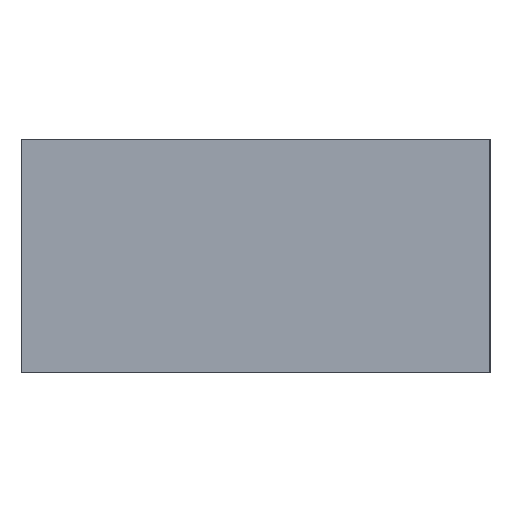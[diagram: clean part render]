
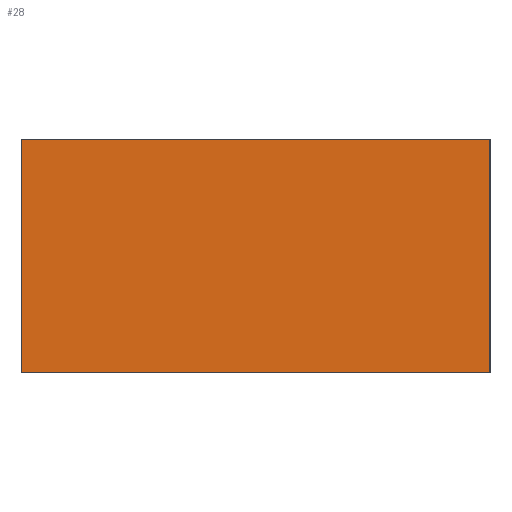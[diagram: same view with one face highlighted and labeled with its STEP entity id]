
A CAD part, front view. The second image highlights one B-rep face of the part: STEP entity #28.
In plain terms, the highlighted planar face has unit normal (0, -1, 0).
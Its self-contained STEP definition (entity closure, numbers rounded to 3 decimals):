
#28=ADVANCED_FACE('',(#34),#186,.T.);
#34=FACE_OUTER_BOUND('',#40,.T.);
#40=EDGE_LOOP('',(#58,#59,#60,#61));
#58=ORIENTED_EDGE('',*,*,#129,.F.);
#59=ORIENTED_EDGE('',*,*,#132,.F.);
#60=ORIENTED_EDGE('',*,*,#135,.F.);
#61=ORIENTED_EDGE('',*,*,#137,.F.);
#69=PCURVE('',#182,#93);
#73=PCURVE('',#183,#97);
#77=PCURVE('',#184,#101);
#81=PCURVE('',#185,#105);
#82=PCURVE('',#186,#106);
#83=PCURVE('',#186,#107);
#84=PCURVE('',#186,#108);
#85=PCURVE('',#186,#109);
#93=DEFINITIONAL_REPRESENTATION('',(#145),#313);
#97=DEFINITIONAL_REPRESENTATION('',(#152),#313);
#101=DEFINITIONAL_REPRESENTATION('',(#159),#313);
#105=DEFINITIONAL_REPRESENTATION('',(#165),#313);
#106=DEFINITIONAL_REPRESENTATION('',(#166),#313);
#107=DEFINITIONAL_REPRESENTATION('',(#167),#313);
#108=DEFINITIONAL_REPRESENTATION('',(#168),#313);
#109=DEFINITIONAL_REPRESENTATION('',(#169),#313);
#117=SURFACE_CURVE('',#144,(#69,#82),.PCURVE_S1.);
#120=SURFACE_CURVE('',#151,(#73,#83),.PCURVE_S1.);
#123=SURFACE_CURVE('',#158,(#77,#84),.PCURVE_S1.);
#125=SURFACE_CURVE('',#164,(#81,#85),.PCURVE_S1.);
#129=EDGE_CURVE('',#175,#174,#117,.T.);
#132=EDGE_CURVE('',#178,#175,#120,.T.);
#135=EDGE_CURVE('',#180,#178,#123,.T.);
#137=EDGE_CURVE('',#174,#180,#125,.T.);
#144=B_SPLINE_CURVE_WITH_KNOTS('',1,(#252,#253),.UNSPECIFIED.,.F.,.F.,(2,
2),(150.,200.),.UNSPECIFIED.);
#145=B_SPLINE_CURVE_WITH_KNOTS('',1,(#254,#255),.UNSPECIFIED.,.F.,.F.,(2,
2),(150.,200.),.UNSPECIFIED.);
#151=B_SPLINE_CURVE_WITH_KNOTS('',1,(#266,#267),.UNSPECIFIED.,.F.,.F.,(2,
2),(100.,150.),.UNSPECIFIED.);
#152=B_SPLINE_CURVE_WITH_KNOTS('',1,(#268,#269),.UNSPECIFIED.,.F.,.F.,(2,
2),(100.,150.),.UNSPECIFIED.);
#158=B_SPLINE_CURVE_WITH_KNOTS('',1,(#280,#281),.UNSPECIFIED.,.F.,.F.,(2,
2),(50.,100.),.UNSPECIFIED.);
#159=B_SPLINE_CURVE_WITH_KNOTS('',1,(#282,#283),.UNSPECIFIED.,.F.,.F.,(2,
2),(50.,100.),.UNSPECIFIED.);
#164=B_SPLINE_CURVE_WITH_KNOTS('',1,(#292,#293),.UNSPECIFIED.,.F.,.F.,(2,
2),(0.,50.),.UNSPECIFIED.);
#165=B_SPLINE_CURVE_WITH_KNOTS('',1,(#294,#295),.UNSPECIFIED.,.F.,.F.,(2,
2),(0.,50.),.UNSPECIFIED.);
#166=B_SPLINE_CURVE_WITH_KNOTS('',1,(#296,#297),.UNSPECIFIED.,.F.,.F.,(2,
2),(150.,200.),.UNSPECIFIED.);
#167=B_SPLINE_CURVE_WITH_KNOTS('',1,(#298,#299),.UNSPECIFIED.,.F.,.F.,(2,
2),(100.,150.),.UNSPECIFIED.);
#168=B_SPLINE_CURVE_WITH_KNOTS('',1,(#300,#301),.UNSPECIFIED.,.F.,.F.,(2,
2),(50.,100.),.UNSPECIFIED.);
#169=B_SPLINE_CURVE_WITH_KNOTS('',1,(#302,#303),.UNSPECIFIED.,.F.,.F.,(2,
2),(0.,50.),.UNSPECIFIED.);
#174=VERTEX_POINT('',#232);
#175=VERTEX_POINT('',#233);
#178=VERTEX_POINT('',#236);
#180=VERTEX_POINT('',#238);
#182=PLANE('',#208);
#183=PLANE('',#209);
#184=PLANE('',#210);
#185=PLANE('',#211);
#186=PLANE('',#212);
#208=AXIS2_PLACEMENT_3D('',#226,#217,$);
#209=AXIS2_PLACEMENT_3D('',#227,#218,$);
#210=AXIS2_PLACEMENT_3D('',#228,#219,$);
#211=AXIS2_PLACEMENT_3D('',#229,#220,$);
#212=AXIS2_PLACEMENT_3D('',#230,#221,$);
#217=DIRECTION('',(1.,0.,0.));
#218=DIRECTION('',(0.,0.,1.));
#219=DIRECTION('',(-1.,0.,0.));
#220=DIRECTION('',(0.,0.,-1.));
#221=DIRECTION('',(0.,-1.,0.));
#226=CARTESIAN_POINT('',(20.,-565.,160.));
#227=CARTESIAN_POINT('',(20.,-565.,180.));
#228=CARTESIAN_POINT('',(-20.,-565.,180.));
#229=CARTESIAN_POINT('',(-20.,-565.,160.));
#230=CARTESIAN_POINT('',(-20.,-565.,160.));
#232=CARTESIAN_POINT('',(20.,-565.,160.));
#233=CARTESIAN_POINT('',(20.,-565.,180.));
#236=CARTESIAN_POINT('',(-20.,-565.,180.));
#238=CARTESIAN_POINT('',(-20.,-565.,160.));
#252=CARTESIAN_POINT('',(20.,-565.,180.));
#253=CARTESIAN_POINT('',(20.,-565.,160.));
#254=CARTESIAN_POINT('',(0.,-150.));
#255=CARTESIAN_POINT('',(0.,-200.));
#266=CARTESIAN_POINT('',(-20.,-565.,180.));
#267=CARTESIAN_POINT('',(20.,-565.,180.));
#268=CARTESIAN_POINT('',(0.,-100.));
#269=CARTESIAN_POINT('',(0.,-150.));
#280=CARTESIAN_POINT('',(-20.,-565.,160.));
#281=CARTESIAN_POINT('',(-20.,-565.,180.));
#282=CARTESIAN_POINT('',(0.,-50.));
#283=CARTESIAN_POINT('',(0.,-100.));
#292=CARTESIAN_POINT('',(20.,-565.,160.));
#293=CARTESIAN_POINT('',(-20.,-565.,160.));
#294=CARTESIAN_POINT('',(0.,0.));
#295=CARTESIAN_POINT('',(0.,-50.));
#296=CARTESIAN_POINT('',(0.,40.));
#297=CARTESIAN_POINT('',(0.,0.));
#298=CARTESIAN_POINT('',(-40.,40.));
#299=CARTESIAN_POINT('',(0.,40.));
#300=CARTESIAN_POINT('',(-40.,0.));
#301=CARTESIAN_POINT('',(-40.,40.));
#302=CARTESIAN_POINT('',(0.,0.));
#303=CARTESIAN_POINT('',(-40.,0.));
#313=(
GEOMETRIC_REPRESENTATION_CONTEXT(2)
PARAMETRIC_REPRESENTATION_CONTEXT()
REPRESENTATION_CONTEXT('pspace','')
);
